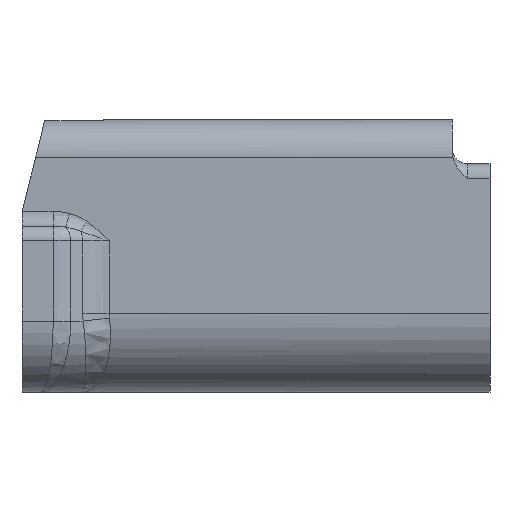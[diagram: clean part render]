
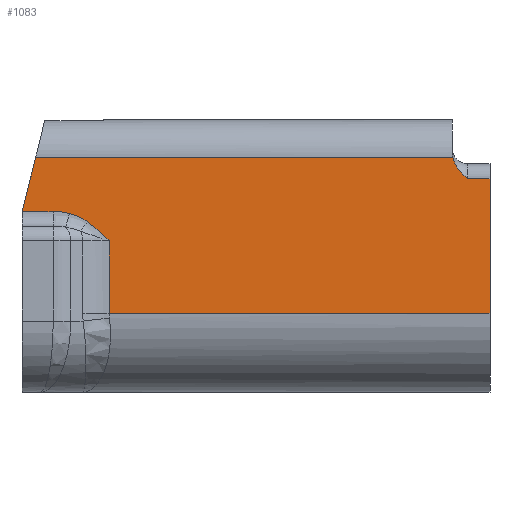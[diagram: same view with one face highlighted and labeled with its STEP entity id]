
A CAD part, front view. The second image highlights one B-rep face of the part: STEP entity #1083.
In plain terms, the highlighted planar face has unit normal (0, -1, 0).
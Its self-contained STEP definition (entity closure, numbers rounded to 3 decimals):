
#994=AXIS2_PLACEMENT_3D('Plane Axis2P3D',#991,#992,#993) ;
#541=CARTESIAN_POINT('Vertex',(-27.552,1.5,15.5)) ;
#544=CARTESIAN_POINT('Line Origine',(-28.45,1.5,15.5)) ;
#548=CARTESIAN_POINT('Vertex',(0.04,1.5,15.5)) ;
#652=CARTESIAN_POINT('Control Point',(0.04,1.5,15.5)) ;
#653=CARTESIAN_POINT('Control Point',(0.131,1.5,15.113)) ;
#654=CARTESIAN_POINT('Control Point',(0.343,1.5,14.78)) ;
#655=CARTESIAN_POINT('Control Point',(0.565,1.5,14.539)) ;
#656=CARTESIAN_POINT('Control Point',(0.782,1.5,14.318)) ;
#657=CARTESIAN_POINT('Control Point',(1.,1.5,14.1)) ;
#658=CARTESIAN_POINT('Vertex',(1.,1.5,14.1)) ;
#770=CARTESIAN_POINT('Line Origine',(-12.97,1.5,14.1)) ;
#774=CARTESIAN_POINT('Vertex',(2.5,1.5,14.1)) ;
#991=CARTESIAN_POINT('Axis2P3D Location',(-28.45,1.5,5.2)) ;
#996=CARTESIAN_POINT('Line Origine',(-27.997,1.5,13.718)) ;
#1000=CARTESIAN_POINT('Vertex',(-28.441,1.5,11.936)) ;
#1003=CARTESIAN_POINT('Line Origine',(-27.416,1.5,11.936)) ;
#1007=CARTESIAN_POINT('Vertex',(-26.391,1.5,11.936)) ;
#1011=CARTESIAN_POINT('Control Point',(-26.391,1.5,11.936)) ;
#1012=CARTESIAN_POINT('Control Point',(-26.378,1.5,11.936)) ;
#1013=CARTESIAN_POINT('Control Point',(-26.366,1.5,11.936)) ;
#1014=CARTESIAN_POINT('Control Point',(-26.353,1.5,11.936)) ;
#1015=CARTESIAN_POINT('Control Point',(-26.275,1.5,11.936)) ;
#1016=CARTESIAN_POINT('Control Point',(-26.197,1.5,11.934)) ;
#1017=CARTESIAN_POINT('Control Point',(-26.131,1.5,11.931)) ;
#1018=CARTESIAN_POINT('Control Point',(-25.975,1.5,11.923)) ;
#1019=CARTESIAN_POINT('Control Point',(-25.817,1.5,11.908)) ;
#1020=CARTESIAN_POINT('Control Point',(-25.726,1.5,11.896)) ;
#1021=CARTESIAN_POINT('Control Point',(-25.59,1.5,11.875)) ;
#1022=CARTESIAN_POINT('Control Point',(-25.453,1.5,11.847)) ;
#1023=CARTESIAN_POINT('Control Point',(-25.408,1.5,11.837)) ;
#1024=CARTESIAN_POINT('Control Point',(-25.364,1.5,11.825)) ;
#1025=CARTESIAN_POINT('Control Point',(-25.32,1.5,11.813)) ;
#1026=CARTESIAN_POINT('Vertex',(-25.32,1.5,11.813)) ;
#1030=CARTESIAN_POINT('Control Point',(-25.32,1.5,11.813)) ;
#1031=CARTESIAN_POINT('Control Point',(-25.17,1.5,11.773)) ;
#1032=CARTESIAN_POINT('Control Point',(-25.021,1.5,11.727)) ;
#1033=CARTESIAN_POINT('Control Point',(-24.874,1.5,11.674)) ;
#1034=CARTESIAN_POINT('Control Point',(-24.63,1.5,11.573)) ;
#1035=CARTESIAN_POINT('Control Point',(-24.394,1.5,11.449)) ;
#1036=CARTESIAN_POINT('Control Point',(-24.299,1.5,11.395)) ;
#1037=CARTESIAN_POINT('Control Point',(-24.207,1.5,11.337)) ;
#1038=CARTESIAN_POINT('Control Point',(-24.117,1.5,11.273)) ;
#1039=CARTESIAN_POINT('Vertex',(-24.117,1.5,11.273)) ;
#1043=CARTESIAN_POINT('Control Point',(-24.117,1.5,11.273)) ;
#1044=CARTESIAN_POINT('Control Point',(-23.685,1.5,10.969)) ;
#1045=CARTESIAN_POINT('Control Point',(-23.331,1.5,10.641)) ;
#1046=CARTESIAN_POINT('Control Point',(-23.01,1.5,10.321)) ;
#1047=CARTESIAN_POINT('Control Point',(-22.689,1.5,10.)) ;
#1048=CARTESIAN_POINT('Vertex',(-22.689,1.5,10.)) ;
#1051=CARTESIAN_POINT('Line Origine',(-22.689,1.5,7.6)) ;
#1055=CARTESIAN_POINT('Vertex',(-22.689,1.5,5.2)) ;
#1058=CARTESIAN_POINT('Line Origine',(-10.094,1.5,5.2)) ;
#1062=CARTESIAN_POINT('Vertex',(2.5,1.5,5.2)) ;
#1065=CARTESIAN_POINT('Line Origine',(2.5,1.5,9.65)) ;
#545=DIRECTION('Vector Direction',(1.,0.,0.)) ;
#771=DIRECTION('Vector Direction',(1.,0.,0.)) ;
#992=DIRECTION('Axis2P3D Direction',(0.,1.,0.)) ;
#993=DIRECTION('Axis2P3D XDirection',(-1.,0.,0.)) ;
#997=DIRECTION('Vector Direction',(0.242,0.,0.97)) ;
#1004=DIRECTION('Vector Direction',(1.,0.,0.)) ;
#1052=DIRECTION('Vector Direction',(0.,0.,-1.)) ;
#1059=DIRECTION('Vector Direction',(1.,0.,0.)) ;
#1066=DIRECTION('Vector Direction',(0.,0.,1.)) ;
#546=VECTOR('Line Direction',#545,1.) ;
#772=VECTOR('Line Direction',#771,1.) ;
#998=VECTOR('Line Direction',#997,1.) ;
#1005=VECTOR('Line Direction',#1004,1.) ;
#1053=VECTOR('Line Direction',#1052,1.) ;
#1060=VECTOR('Line Direction',#1059,1.) ;
#1067=VECTOR('Line Direction',#1066,1.) ;
#1071=ORIENTED_EDGE('',*,*,#1002,.F.) ;
#1072=ORIENTED_EDGE('',*,*,#1009,.T.) ;
#1073=ORIENTED_EDGE('',*,*,#1028,.T.) ;
#1074=ORIENTED_EDGE('',*,*,#1041,.T.) ;
#1075=ORIENTED_EDGE('',*,*,#1050,.T.) ;
#1076=ORIENTED_EDGE('',*,*,#1057,.F.) ;
#1077=ORIENTED_EDGE('',*,*,#1064,.T.) ;
#1078=ORIENTED_EDGE('',*,*,#1069,.T.) ;
#1079=ORIENTED_EDGE('',*,*,#776,.F.) ;
#1080=ORIENTED_EDGE('',*,*,#660,.T.) ;
#1081=ORIENTED_EDGE('',*,*,#550,.F.) ;
#1083=ADVANCED_FACE('6189-7171',(#1082),#995,.F.) ;
#651=B_SPLINE_CURVE_WITH_KNOTS('',5,(#652,#653,#654,#655,#656,#657),.UNSPECIFIED.,.F.,.U.,(6,6),(0.,2.888),.UNSPECIFIED.) ;
#1010=B_SPLINE_CURVE_WITH_KNOTS('',5,(#1011,#1012,#1013,#1014,#1015,#1016,#1017,#1018,#1019,#1020,#1021,#1022,#1023,#1024,#1025),.UNSPECIFIED.,.F.,.U.,(6,3,3,3,6),(14.824,14.899,15.293,15.83,16.09),.UNSPECIFIED.) ;
#1029=B_SPLINE_CURVE_WITH_KNOTS('',5,(#1030,#1031,#1032,#1033,#1034,#1035,#1036,#1037,#1038),.UNSPECIFIED.,.F.,.U.,(6,3,6),(9.592,10.608,11.3),.UNSPECIFIED.) ;
#1042=B_SPLINE_CURVE_WITH_KNOTS('',4,(#1043,#1044,#1045,#1046,#1047),.UNSPECIFIED.,.F.,.U.,(5,5),(8.479,11.692),.UNSPECIFIED.) ;
#550=EDGE_CURVE('',#542,#549,#547,.T.) ;
#660=EDGE_CURVE('',#659,#549,#651,.F.) ;
#776=EDGE_CURVE('',#659,#775,#773,.T.) ;
#1002=EDGE_CURVE('',#1001,#542,#999,.T.) ;
#1009=EDGE_CURVE('',#1001,#1008,#1006,.T.) ;
#1028=EDGE_CURVE('',#1008,#1027,#1010,.T.) ;
#1041=EDGE_CURVE('',#1027,#1040,#1029,.T.) ;
#1050=EDGE_CURVE('',#1040,#1049,#1042,.T.) ;
#1057=EDGE_CURVE('',#1056,#1049,#1054,.F.) ;
#1064=EDGE_CURVE('',#1056,#1063,#1061,.T.) ;
#1069=EDGE_CURVE('',#1063,#775,#1068,.T.) ;
#1070=EDGE_LOOP('',(#1071,#1072,#1073,#1074,#1075,#1076,#1077,#1078,#1079,#1080,#1081)) ;
#1082=FACE_OUTER_BOUND('',#1070,.T.) ;
#547=LINE('Line',#544,#546) ;
#773=LINE('Line',#770,#772) ;
#999=LINE('Line',#996,#998) ;
#1006=LINE('Line',#1003,#1005) ;
#1054=LINE('Line',#1051,#1053) ;
#1061=LINE('Line',#1058,#1060) ;
#1068=LINE('Line',#1065,#1067) ;
#995=PLANE('',#994) ;
#542=VERTEX_POINT('',#541) ;
#549=VERTEX_POINT('',#548) ;
#659=VERTEX_POINT('',#658) ;
#775=VERTEX_POINT('',#774) ;
#1001=VERTEX_POINT('',#1000) ;
#1008=VERTEX_POINT('',#1007) ;
#1027=VERTEX_POINT('',#1026) ;
#1040=VERTEX_POINT('',#1039) ;
#1049=VERTEX_POINT('',#1048) ;
#1056=VERTEX_POINT('',#1055) ;
#1063=VERTEX_POINT('',#1062) ;
